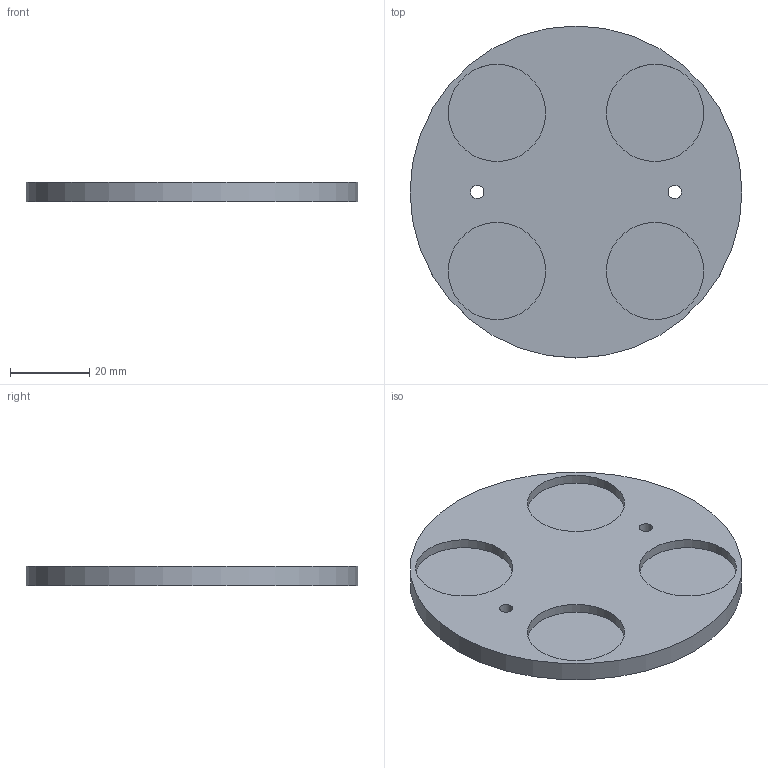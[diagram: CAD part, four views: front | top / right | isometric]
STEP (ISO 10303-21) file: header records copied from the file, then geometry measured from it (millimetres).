
FILE_DESCRIPTION(('Open CASCADE Model'),'2;1');
FILE_NAME('Open CASCADE Shape Model','2026-09-06T14:27:59',('Author'),( 'Open CASCADE'),'Open CASCADE STEP processor 7.9','Open CASCADE 7.9' ,'Unknown');
FILE_SCHEMA(('AUTOMOTIVE_DESIGN { 1 0 10303 214 1 1 1 1 }'));
Length unit declared in the file: millimetre
Products named in the file (1): Open CASCADE STEP translator 7.9 3
Bounding box: 84 x 84 x 5 mm (x, y, z)
Volume: 22975.7 mm3; surface area: 13248.2 mm2
Topology: 1 solids, 1 shells, 17 faces, 27 edges, 18 vertices
Faces by surface type: cylinder 9, plane 8
Full cylindrical faces by diameter (mm): 3.4 x2, 6.3 x2, 24.6 x4, 84 x1
Entity records: 798 total; most frequent: CARTESIAN_POINT 177, DIRECTION 125, ORIENTED_EDGE 54, PCURVE 54, DEFINITIONAL_REPRESENTATION 54, LINE 45, VECTOR 45, AXIS2_PLACEMENT_3D 36
